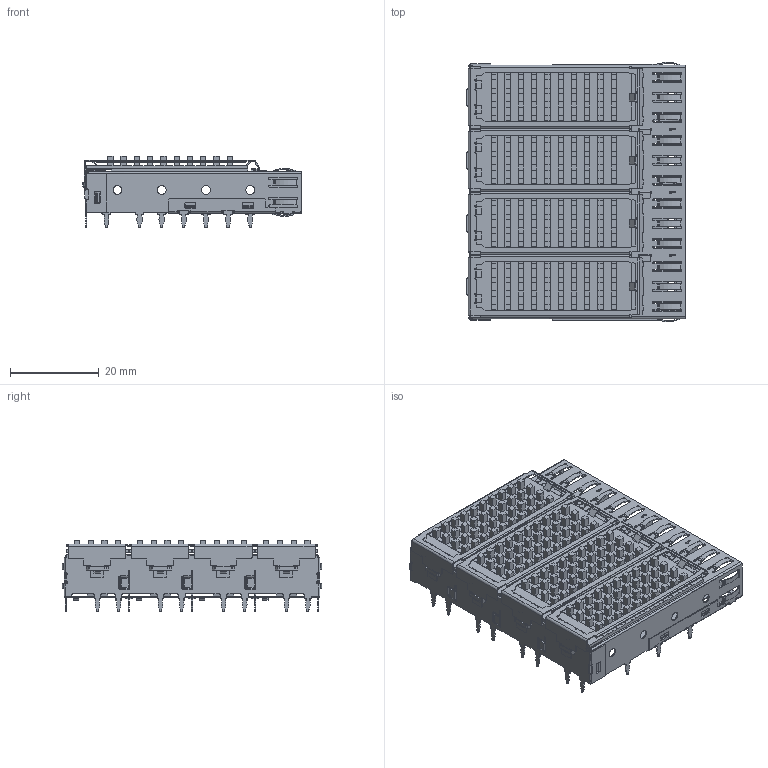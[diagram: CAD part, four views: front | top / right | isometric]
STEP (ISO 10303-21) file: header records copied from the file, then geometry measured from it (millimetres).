
FILE_DESCRIPTION( ('This file contains a STEP AP42 implementation' ,'as created by ZW3D STEP Interface translator.' ,'') ,'2;1' );
FILE_NAME( '¿Í»§3D 10701014W036.stp' ,'251117.174532', (''), ('ZWCAD Software Co.'), 'Version 1.0', 'ZW3D to STEP translator', '' );
FILE_SCHEMA(('AUTOMOTIVE_DESIGN { 1 0 10303 214 1 1 1 1 }'));
Length unit declared in the file: millimetre
Products named in the file (1): 0
Bounding box: 49.3 x 58.65 x 16.2 mm (x, y, z)
Volume: 5611.9 mm3; surface area: 21805.1 mm2
Topology: 1 solids, 5 shells, 4414 faces, 13034 edges, 8525 vertices
Faces by surface type: plane 2652, cylinder 1738, torus 12, sphere 12
Full cylindrical faces by diameter (mm): 2 x20
Entity records: 152612 total; most frequent: CARTESIAN_POINT 26355, ORIENTED_EDGE 26076, DIRECTION 25281, EDGE_CURVE 13034, VECTOR 9437, LINE 9437, VERTEX_POINT 8525, AXIS2_PLACEMENT_3D 7922
